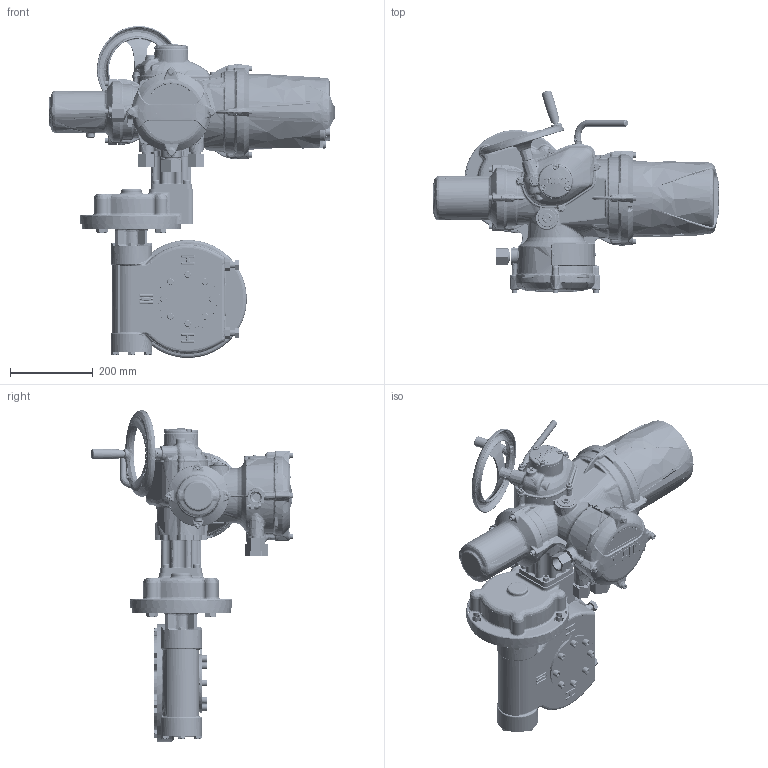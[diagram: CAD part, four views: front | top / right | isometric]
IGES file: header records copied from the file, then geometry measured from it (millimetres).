
Start section: C
Global section: file name: II1SHWIWD5RHSTD-1.igs; native system: By Siemens PLM Incorporated; preprocessor: XPlus GENERIC/IGES 17.0.49; author: Author; organization: Title; date: 20150721.083515; units: millimetre
Bounding box: 692.3 x 489.76 x 801.87 mm (x, y, z)
Surface area: 1337648 mm2 (no closed solid volume)
Topology: 0 solids, 0 shells, 8466 faces, 46266 edges, 45818 vertices
Faces by surface type: bspline 8466
